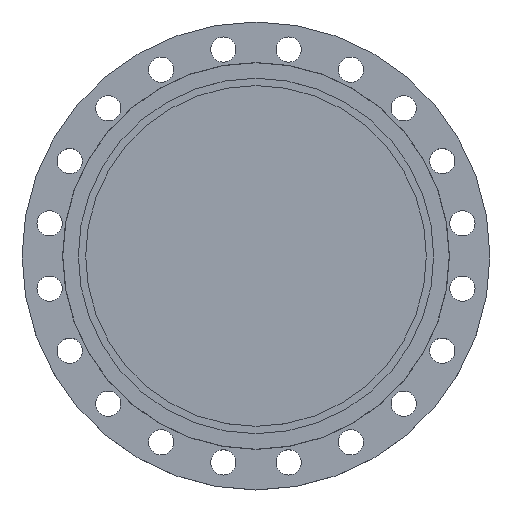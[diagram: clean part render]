
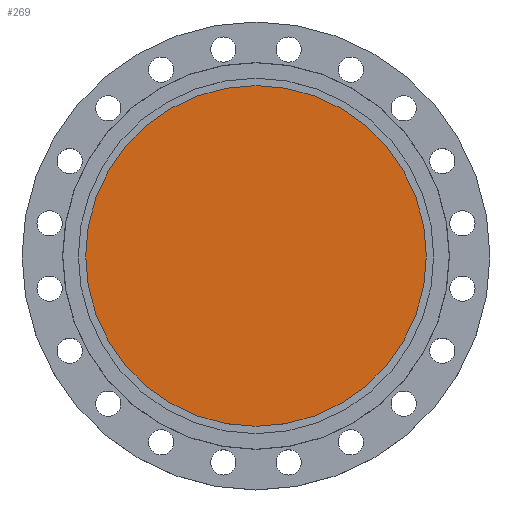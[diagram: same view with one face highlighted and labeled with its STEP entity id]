
A CAD part, top view. The second image highlights one B-rep face of the part: STEP entity #269.
In plain terms, the highlighted planar face has unit normal (0, 0, 1).
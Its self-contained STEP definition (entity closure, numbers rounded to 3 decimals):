
#249 = CARTESIAN_POINT ( 'NONE',  ( -324., 0., 0. ) ) ;
#269 = ADVANCED_FACE ( 'NONE', ( #894 ), #890, .T. ) ;
#271 = CARTESIAN_POINT ( 'NONE',  ( 324., 0., 0. ) ) ;
#544 = AXIS2_PLACEMENT_3D ( 'NONE', #889, #888, #886 ) ;
#678 = DIRECTION ( 'NONE',  ( -1., 0., 0. ) ) ;
#679 = DIRECTION ( 'NONE',  ( 0., 0., -1. ) ) ;
#680 = CARTESIAN_POINT ( 'NONE',  ( 0., 0., 0. ) ) ;
#693 = EDGE_CURVE ( 'NONE', #1373, #1390, #1400, .T. ) ;
#886 = DIRECTION ( 'NONE',  ( 1., 0., 0. ) ) ;
#888 = DIRECTION ( 'NONE',  ( 0., 0., 1. ) ) ;
#889 = CARTESIAN_POINT ( 'NONE',  ( 0., 0., 0. ) ) ;
#890 = PLANE ( 'NONE',  #544 ) ;
#894 = FACE_OUTER_BOUND ( 'NONE', #1043, .T. ) ;
#1043 = EDGE_LOOP ( 'NONE', ( #1250, #1248 ) ) ;
#1248 = ORIENTED_EDGE ( 'NONE', *, *, #693, .F. ) ;
#1250 = ORIENTED_EDGE ( 'NONE', *, *, #1654, .F. ) ;
#1276 = CARTESIAN_POINT ( 'NONE',  ( 0., 0., 0. ) ) ;
#1289 = CIRCLE ( 'NONE', #1364, 324. ) ;
#1303 = DIRECTION ( 'NONE',  ( 0., 0., -1. ) ) ;
#1364 = AXIS2_PLACEMENT_3D ( 'NONE', #1276, #1303, #1532 ) ;
#1373 = VERTEX_POINT ( 'NONE', #271 ) ;
#1390 = VERTEX_POINT ( 'NONE', #249 ) ;
#1400 = CIRCLE ( 'NONE', #1408, 324. ) ;
#1408 = AXIS2_PLACEMENT_3D ( 'NONE', #680, #679, #678 ) ;
#1532 = DIRECTION ( 'NONE',  ( -1., 0., 0. ) ) ;
#1654 = EDGE_CURVE ( 'NONE', #1390, #1373, #1289, .T. ) ;
